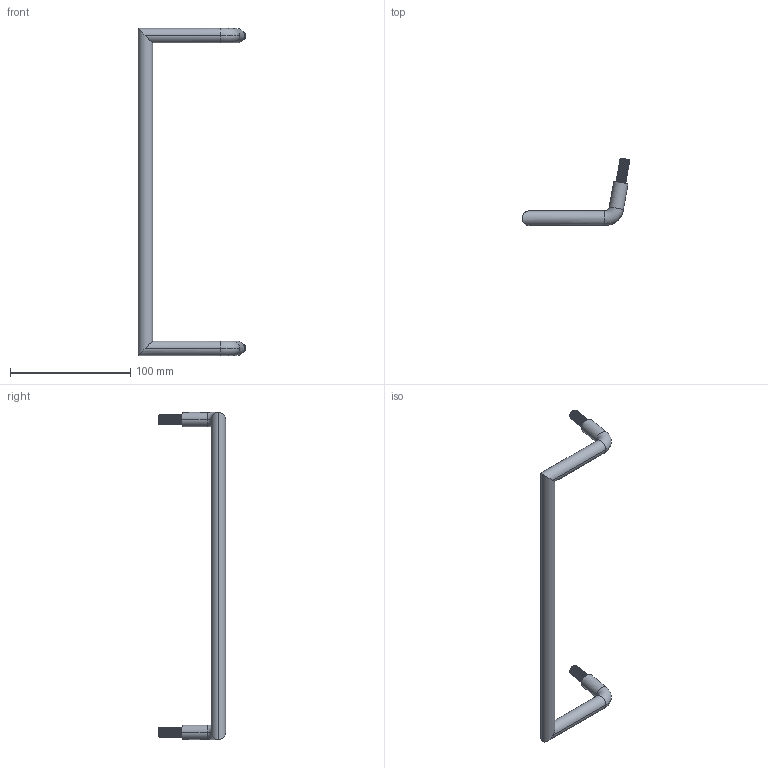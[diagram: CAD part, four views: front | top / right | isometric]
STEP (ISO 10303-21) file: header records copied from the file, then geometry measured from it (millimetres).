
FILE_DESCRIPTION (( 'STEP AP203' ), '1' );
FILE_NAME ('KA-1235-3.STEP', '2010-02-25T06:34:20', ( ' ' ), ( '' ), 'SwSTEP 2.0', 'SolidWorks 2010', '' );
FILE_SCHEMA (( 'CONFIG_CONTROL_DESIGN' ));
Length unit declared in the file: millimetre
Products named in the file (1): KA-1235-3
Bounding box: 89.42 x 55.85 x 272 mm (x, y, z)
Volume: 53418.1 mm3; surface area: 18904.3 mm2
Topology: 1 solids, 1 shells, 98 faces, 274 edges, 180 vertices
Faces by surface type: cylinder 82, plane 6, bspline 6, torus 4
Entity records: 11233 total; most frequent: CARTESIAN_POINT 9117, ORIENTED_EDGE 548, DIRECTION 320, EDGE_CURVE 274, VERTEX_POINT 180, AXIS2_PLACEMENT_3D 119, EDGE_LOOP 100, ADVANCED_FACE 98
